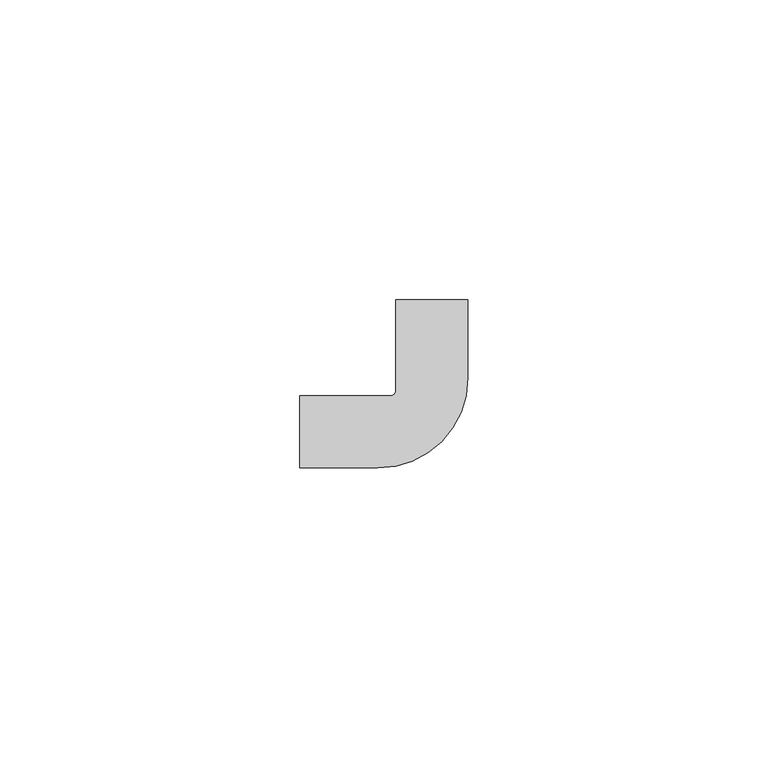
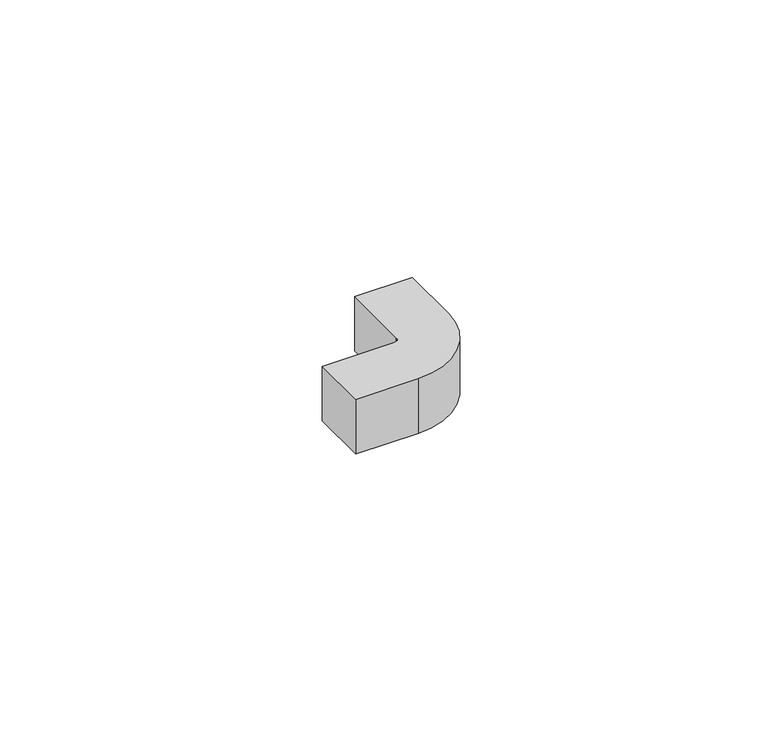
"""IFC4 building model written with IfcOpenShell, lengths in millimetres: duct fitting geometry, Поворот 90 гр. КМП : Поворот 90 гр. КМП."""

from ifc_helpers import new_model, si_unit, point, frame, frame_2d, origin, place, context, project, spatial, polyline, circle_curve, trimmed, segment, composite_curve, outline, extrude, source, transform, mapped, element, save


def duct_fitting_c61af963(model_context):
    return source(origin(), model_context, "Body", "SweptSolid", [
        extrude(outline(composite_curve([segment(polyline([(-6.0, 7.0), (-6.0, 22.0), (6.0, 22.0), (6.0, 9.0)]), True, "CONTINUOUS"), segment(trimmed(circle_curve(frame_2d((-9.0, 9.0)), 15.0), [point((6.0, 9.0))], [point((-9.0, -6.0))], False, "CARTESIAN"), True, "CONTINUOUS"), segment(polyline([(-9.0, -6.0), (-22.0, -6.0), (-22.0, 6.0), (-7.0, 6.0)]), True, "CONTINUOUS"), segment(trimmed(circle_curve(frame_2d((-7.0, 7.0)), 1.0), [point((-7.0, 6.0))], [point((-6.0, 7.0))], True, "CARTESIAN"), True, "CONTINUOUS")], self_intersect=False)), frame((0.0, 0.0, -6.0), z_axis=(0.0, 0.0, 1.0), x_axis=(1.0, 0.0, 0.0)), (0.0, 0.0, 1.0), 12.0),
    ])


if __name__ == "__main__":
    model = new_model("IFC4")
    model_context = context("Model", 3, world=origin())
    ifc_project = project(units=[si_unit("LENGTHUNIT", "METRE", prefix="MILLI")], contexts=[model_context])
    site = spatial("IfcSite", under=ifc_project)
    building = spatial("IfcBuilding", under=site)
    placement = place(None, origin())
    duct_fitting_shape = duct_fitting_c61af963(model_context)
    element("IfcDuctFitting", 1, ObjectType="Поворот 90 гр. КМП : Поворот 90 гр. КМП", at=placement, inside=building, context=model_context, shape_type="MappedRepresentation", body=[
        mapped(duct_fitting_shape, transform((0.0, 0.0, 0.0), x_axis=(1.0, 0.0, 0.0), y_axis=(0.0, 1.0, 0.0), z_axis=(0.0, 0.0, 1.0))),
    ])
    save(model, "model.ifc")
